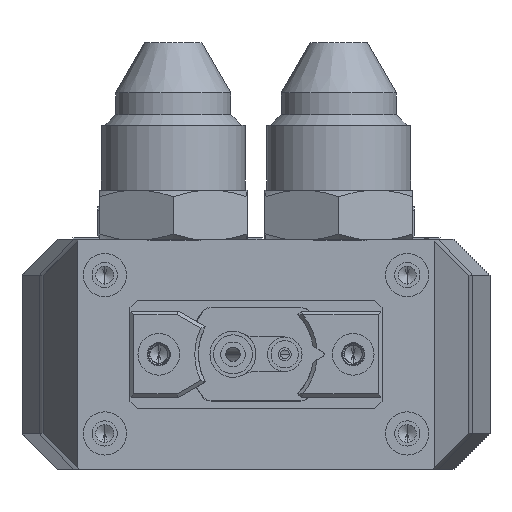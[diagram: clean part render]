
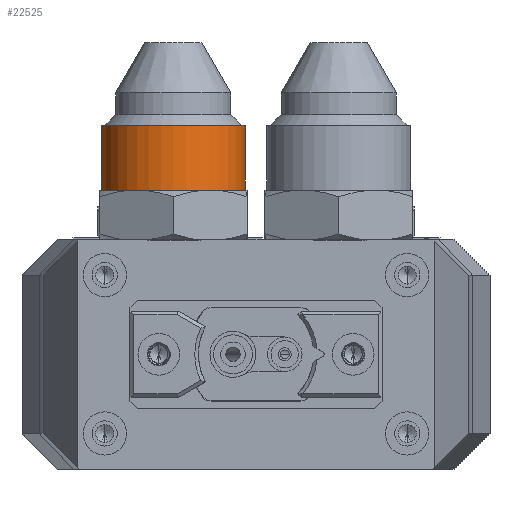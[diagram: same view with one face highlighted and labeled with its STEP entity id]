
A CAD part, front view. The second image highlights one B-rep face of the part: STEP entity #22525.
In plain terms, the highlighted cylindrical face has radius 10 mm (diameter 20 mm), a partial arc.
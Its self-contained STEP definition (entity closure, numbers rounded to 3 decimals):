
#1530 = EDGE_CURVE ( 'NONE', #8326, #35071, #31146, .T. ) ;
#6839 = DIRECTION ( 'NONE',  ( 0., 0., 1. ) ) ;
#8326 = VERTEX_POINT ( 'NONE', #55708 ) ;
#10773 = CARTESIAN_POINT ( 'NONE',  ( -39.905, -128.319, 1030.303 ) ) ;
#17165 = EDGE_CURVE ( 'NONE', #35872, #8326, #49989, .T. ) ;
#17484 = CARTESIAN_POINT ( 'NONE',  ( -39.905, -128.319, 1021.303 ) ) ;
#18804 = CARTESIAN_POINT ( 'NONE',  ( -49.905, -128.319, 1021.303 ) ) ;
#19009 = CARTESIAN_POINT ( 'NONE',  ( -49.905, -128.319, 1052.575 ) ) ;
#22525 = ADVANCED_FACE ( 'NONE', ( #34506 ), #24158, .T. ) ;
#22634 = ORIENTED_EDGE ( 'NONE', *, *, #52666, .T. ) ;
#24158 = CYLINDRICAL_SURFACE ( 'NONE', #49273, 10. ) ;
#24732 = VECTOR ( 'NONE', #37442, 1000. ) ;
#25210 = AXIS2_PLACEMENT_3D ( 'NONE', #10773, #54656, #60449 ) ;
#26077 = EDGE_CURVE ( 'NONE', #35872, #46839, #52896, .T. ) ;
#26274 = CARTESIAN_POINT ( 'NONE',  ( -29.905, -128.319, 1052.575 ) ) ;
#31146 = LINE ( 'NONE', #26274, #51255 ) ;
#34192 = DIRECTION ( 'NONE',  ( 1., 0., 0. ) ) ;
#34280 = CARTESIAN_POINT ( 'NONE',  ( -29.905, -128.319, 1030.303 ) ) ;
#34506 = FACE_OUTER_BOUND ( 'NONE', #62787, .T. ) ;
#35071 = VERTEX_POINT ( 'NONE', #34280 ) ;
#35872 = VERTEX_POINT ( 'NONE', #18804 ) ;
#37167 = DIRECTION ( 'NONE',  ( 1., 0., 0. ) ) ;
#37442 = DIRECTION ( 'NONE',  ( 0., 0., 1. ) ) ;
#40409 = ORIENTED_EDGE ( 'NONE', *, *, #26077, .F. ) ;
#41727 = CIRCLE ( 'NONE', #25210, 10. ) ;
#45982 = DIRECTION ( 'NONE',  ( 0., 0., 1. ) ) ;
#46839 = VERTEX_POINT ( 'NONE', #61374 ) ;
#49273 = AXIS2_PLACEMENT_3D ( 'NONE', #49666, #59039, #34192 ) ;
#49666 = CARTESIAN_POINT ( 'NONE',  ( -39.905, -128.319, 1052.575 ) ) ;
#49989 = CIRCLE ( 'NONE', #60304, 10. ) ;
#51255 = VECTOR ( 'NONE', #45982, 1000. ) ;
#52666 = EDGE_CURVE ( 'NONE', #35071, #46839, #41727, .T. ) ;
#52896 = LINE ( 'NONE', #19009, #24732 ) ;
#54656 = DIRECTION ( 'NONE',  ( 0., 0., -1. ) ) ;
#55708 = CARTESIAN_POINT ( 'NONE',  ( -29.905, -128.319, 1021.303 ) ) ;
#59039 = DIRECTION ( 'NONE',  ( 0., 0., 1. ) ) ;
#60304 = AXIS2_PLACEMENT_3D ( 'NONE', #17484, #6839, #37167 ) ;
#60369 = ORIENTED_EDGE ( 'NONE', *, *, #1530, .T. ) ;
#60449 = DIRECTION ( 'NONE',  ( 1., 0., 0. ) ) ;
#61374 = CARTESIAN_POINT ( 'NONE',  ( -49.905, -128.319, 1030.303 ) ) ;
#62787 = EDGE_LOOP ( 'NONE', ( #40409, #63068, #60369, #22634 ) ) ;
#63068 = ORIENTED_EDGE ( 'NONE', *, *, #17165, .T. ) ;
